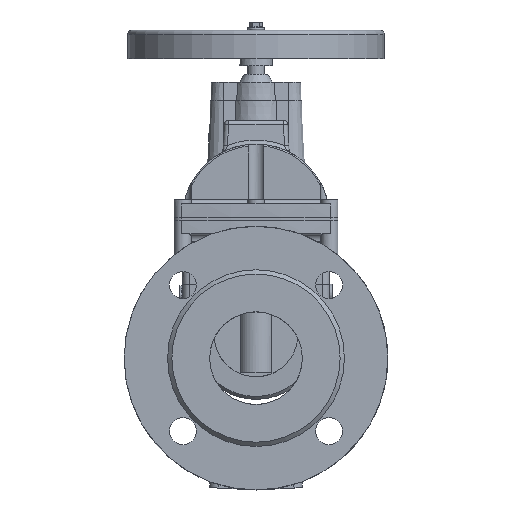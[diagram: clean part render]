
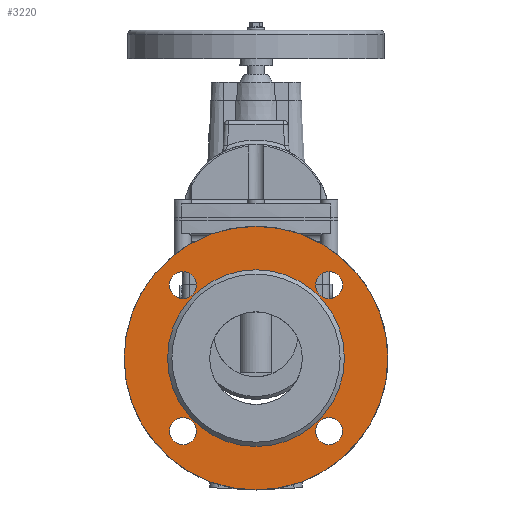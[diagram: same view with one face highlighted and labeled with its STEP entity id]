
A CAD part, left-side view. The second image highlights one B-rep face of the part: STEP entity #3220.
In plain terms, the highlighted planar face has unit normal (-1, 0, 0).
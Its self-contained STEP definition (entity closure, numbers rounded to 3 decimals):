
#3220=ADVANCED_FACE('',(#8117,#8119,#8121,#8123,#8125,#8127),#8129,.F.);
#8117=FACE_BOUND('',#8118,.T.);
#8118=EDGE_LOOP('',(#16725));
#8119=FACE_BOUND('',#8120,.T.);
#8120=EDGE_LOOP('',(#16726));
#8121=FACE_BOUND('',#8122,.T.);
#8122=EDGE_LOOP('',(#16727));
#8123=FACE_BOUND('',#8124,.T.);
#8124=EDGE_LOOP('',(#16728));
#8125=FACE_BOUND('',#8126,.T.);
#8126=EDGE_LOOP('',(#16729));
#8127=FACE_BOUND('',#8128,.T.);
#8128=EDGE_LOOP('',(#16730));
#8129=PLANE('',#8130);
#8130=AXIS2_PLACEMENT_3D('',#8131,#8132,#8133);
#8131=CARTESIAN_POINT('',(-82.,0.,0.));
#8132=DIRECTION('',(1.,0.,0.));
#8133=DIRECTION('',(0.,1.,0.));
#16725=ORIENTED_EDGE('',*,*,#19286,.F.);
#16726=ORIENTED_EDGE('',*,*,#19296,.T.);
#16727=ORIENTED_EDGE('',*,*,#19295,.T.);
#16728=ORIENTED_EDGE('',*,*,#19294,.T.);
#16729=ORIENTED_EDGE('',*,*,#19409,.F.);
#16730=ORIENTED_EDGE('',*,*,#19293,.T.);
#19286=EDGE_CURVE('',#21847,#21847,#21848,.T.);
#19293=EDGE_CURVE('',#21857,#21857,#21858,.T.);
#19294=EDGE_CURVE('',#21859,#21859,#21860,.T.);
#19295=EDGE_CURVE('',#21861,#21861,#21862,.T.);
#19296=EDGE_CURVE('',#21863,#21863,#21864,.T.);
#19409=EDGE_CURVE('',#22036,#22036,#22037,.T.);
#21847=VERTEX_POINT('',#30050);
#21848=CIRCLE('',#30051,92.5);
#21857=VERTEX_POINT('',#30077);
#21858=CIRCLE('',#30078,9.5);
#21859=VERTEX_POINT('',#30082);
#21860=CIRCLE('',#30083,9.5);
#21861=VERTEX_POINT('',#30087);
#21862=CIRCLE('',#30088,9.5);
#21863=VERTEX_POINT('',#30092);
#21864=CIRCLE('',#30093,9.5);
#22036=VERTEX_POINT('',#30641);
#22037=CIRCLE('',#30642,62.);
#30050=CARTESIAN_POINT('',(-82.,92.5,0.));
#30051=AXIS2_PLACEMENT_3D('',#30052,#30053,#30054);
#30052=CARTESIAN_POINT('',(-82.,0.,0.));
#30053=DIRECTION('',(1.,0.,0.));
#30054=DIRECTION('',(0.,1.,0.));
#30077=CARTESIAN_POINT('',(-82.,60.765,51.265));
#30078=AXIS2_PLACEMENT_3D('',#30079,#30080,#30081);
#30079=CARTESIAN_POINT('',(-82.,51.265,51.265));
#30080=DIRECTION('',(1.,0.,0.));
#30081=DIRECTION('',(0.,1.,0.));
#30082=CARTESIAN_POINT('',(-82.,51.265,-60.765));
#30083=AXIS2_PLACEMENT_3D('',#30084,#30085,#30086);
#30084=CARTESIAN_POINT('',(-82.,51.265,-51.265));
#30085=DIRECTION('',(1.,0.,0.));
#30086=DIRECTION('',(0.,0.,-1.));
#30087=CARTESIAN_POINT('',(-82.,-60.765,-51.265));
#30088=AXIS2_PLACEMENT_3D('',#30089,#30090,#30091);
#30089=CARTESIAN_POINT('',(-82.,-51.265,-51.265));
#30090=DIRECTION('',(1.,0.,0.));
#30091=DIRECTION('',(0.,-1.,0.));
#30092=CARTESIAN_POINT('',(-82.,-51.265,60.765));
#30093=AXIS2_PLACEMENT_3D('',#30094,#30095,#30096);
#30094=CARTESIAN_POINT('',(-82.,-51.265,51.265));
#30095=DIRECTION('',(1.,0.,0.));
#30096=DIRECTION('',(0.,0.,1.));
#30641=CARTESIAN_POINT('',(-82.,-62.,0.));
#30642=AXIS2_PLACEMENT_3D('',#30643,#30644,#30645);
#30643=CARTESIAN_POINT('',(-82.,0.,0.));
#30644=DIRECTION('',(-1.,0.,0.));
#30645=DIRECTION('',(0.,-1.,0.));
